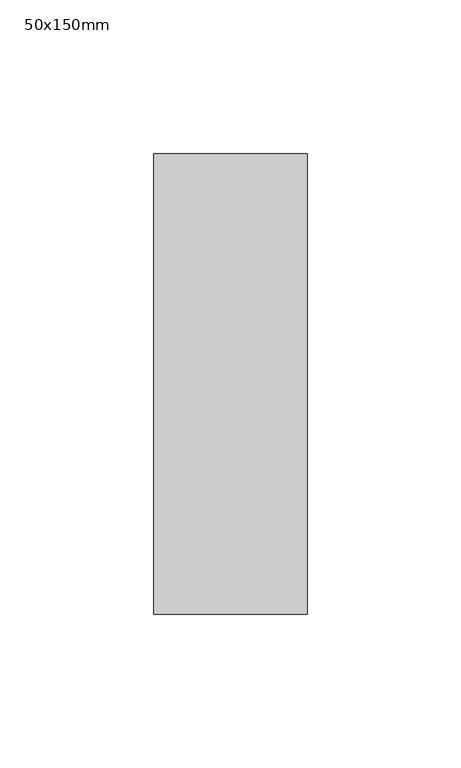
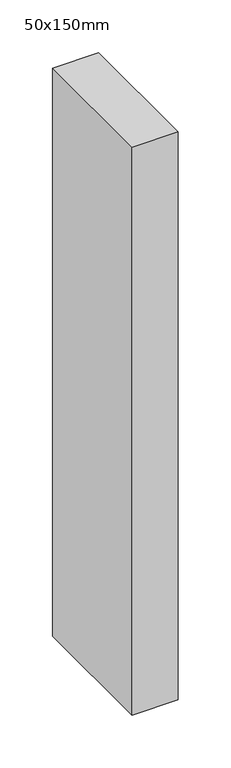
"""IFC4 building model written with IfcOpenShell, lengths in millimetres: member geometry, 長方形マリオン : 50x150mm."""

import ifcopenshell
import ifcopenshell.guid

model = None  # the IFC model being written
_history = None  # IfcOwnerHistory: only IFC2X3 demands one
_inside = {}  # id of a spatial element -> (the spatial element, [elements in it])
_under = {}  # id of a project, library or spatial element -> (it, [spatial elements below it])
_declared = {}  # id of a project -> (the project, [libraries it declares])
_typed = {}  # id of a type object -> (the type object, [elements of that type])
_made_of = {}  # id of a material, layer set ... -> (it, [elements and type objects made of it])


def new_model(schema):
    """Start an empty IFC model of exactly this schema.

    Asked for "IFC4X3", IfcOpenShell would pick the latest addendum, in which some entities
    have other attributes; the version numbers below select the first issue.
    IFC2X3 requires an IfcOwnerHistory on every rooted entity: one is made here for all.
    """
    global model, _history
    if schema == "IFC4X3":
        model = ifcopenshell.file(schema_version=(4, 3, 0, 0))
    else:
        model = ifcopenshell.file(schema=schema)
    _inside.clear()
    _under.clear()
    _declared.clear()
    _typed.clear()
    _made_of.clear()
    _history = None
    if model.schema == "IFC2X3":
        org = make("IfcOrganization", Name="unknown")
        user = make(
            "IfcPersonAndOrganization",
            ThePerson=make("IfcPerson", FamilyName="unknown"),
            TheOrganization=org,
        )
        app = make(
            "IfcApplication",
            ApplicationDeveloper=org,
            Version="unknown",
            ApplicationFullName="unknown",
            ApplicationIdentifier="unknown",
        )
        _history = make(
            "IfcOwnerHistory",
            OwningUser=user,
            OwningApplication=app,
            ChangeAction="ADDED",
            CreationDate=0,
        )
    return model


def make(cls, **values):
    """One entity of the class cls with the attributes given. An attribute that is None is left unset."""
    return model.create_entity(
        cls, **{name: value for name, value in values.items() if value is not None}
    )


def rooted(cls, **values):
    """An entity with a GlobalId (a new one), such as an element, a storey or a relation."""
    return make(cls, GlobalId=ifcopenshell.guid.new(), OwnerHistory=_history, **values)


def si_unit(unit_type, name, prefix=None):
    """IfcSIUnit, for example si_unit("LENGTHUNIT", "METRE", prefix="MILLI")."""
    return make("IfcSIUnit", UnitType=unit_type, Prefix=prefix, Name=name)


def assignment(units):
    """IfcUnitAssignment: the units of a project."""
    return None if units is None else make("IfcUnitAssignment", Units=units)


def point(xyz):
    """IfcCartesianPoint."""
    return None if xyz is None else make("IfcCartesianPoint", Coordinates=xyz)


def direction(xyz):
    """IfcDirection."""
    return None if xyz is None else make("IfcDirection", DirectionRatios=xyz)


def frame(location, z_axis=None, x_axis=None):
    """IfcAxis2Placement3D, a coordinate frame: its origin and axes. An axis left out is left unset."""
    return make(
        "IfcAxis2Placement3D",
        Location=point(location),
        Axis=direction(z_axis),
        RefDirection=direction(x_axis),
    )


def origin():
    """The frame at (0, 0, 0) with its axes left unset."""
    return frame((0.0, 0.0, 0.0))


def place(relative_to, where):
    """IfcLocalPlacement: puts the frame where relative to a parent placement (None: the world)."""
    return make(
        "IfcLocalPlacement", PlacementRelTo=relative_to, RelativePlacement=where
    )


def context(
    kind, dimensions, precision=None, world=None, true_north=None, identifier=None
):
    """IfcGeometricRepresentationContext, for example the 3D "Model" context."""
    return make(
        "IfcGeometricRepresentationContext",
        ContextIdentifier=identifier,
        ContextType=kind,
        CoordinateSpaceDimension=dimensions,
        Precision=precision,
        WorldCoordinateSystem=world,
        TrueNorth=true_north,
    )


def project(units=None, contexts=None):
    """IfcProject with its units and contexts."""
    return rooted(
        "IfcProject",
        Name="project",
        RepresentationContexts=contexts,
        UnitsInContext=assignment(units),
    )


def spatial(cls, under=None, at=None, **own):
    """A site, building, storey or space (cls), placed at a placement, below another one or the project."""
    s = rooted(cls, ObjectPlacement=at, **own)
    if under is not None:
        _under.setdefault(under.id(), (under, []))[1].append(s)
    return s


def polyline(points):
    """IfcPolyline through the points."""
    return make("IfcPolyline", Points=[point(p) for p in points])


def outline(outer, holes=None, kind="AREA"):
    """IfcArbitraryClosedProfileDef: a profile drawn as a closed curve; with holes, ...WithVoids."""
    if holes is None:
        return make("IfcArbitraryClosedProfileDef", ProfileType=kind, OuterCurve=outer)
    return make(
        "IfcArbitraryProfileDefWithVoids",
        ProfileType=kind,
        OuterCurve=outer,
        InnerCurves=holes,
    )


def extrude(swept, where, along, depth):
    """IfcExtrudedAreaSolid: the profile swept, set in the frame where, extruded along a direction by depth."""
    return make(
        "IfcExtrudedAreaSolid",
        SweptArea=swept,
        Position=where,
        ExtrudedDirection=direction(along),
        Depth=depth,
    )


def shape(context_of_items, identifier, shape_type, items):
    """IfcShapeRepresentation: the items that make up one representation, for example the "Body"."""
    return make(
        "IfcShapeRepresentation",
        ContextOfItems=context_of_items,
        RepresentationIdentifier=identifier,
        RepresentationType=shape_type,
        Items=items,
    )


def source(mapping_origin, context_of_items, identifier, shape_type, items):
    """IfcRepresentationMap: a shape defined once, which mapped items show again and again."""
    return make(
        "IfcRepresentationMap",
        MappingOrigin=mapping_origin,
        MappedRepresentation=shape(context_of_items, identifier, shape_type, items),
    )


def transform(
    local_origin,
    x_axis=None,
    y_axis=None,
    z_axis=None,
    scale=None,
    scale2=None,
    scale3=None,
    uniform=True,
):
    """IfcCartesianTransformationOperator3D, or its non-uniform kind. x_axis, y_axis, z_axis: its Axis1, 2, 3."""
    if uniform:
        return make(
            "IfcCartesianTransformationOperator3D",
            Axis1=direction(x_axis),
            Axis2=direction(y_axis),
            LocalOrigin=point(local_origin),
            Scale=scale,
            Axis3=direction(z_axis),
        )
    return make(
        "IfcCartesianTransformationOperator3DnonUniform",
        Axis1=direction(x_axis),
        Axis2=direction(y_axis),
        LocalOrigin=point(local_origin),
        Scale=scale,
        Axis3=direction(z_axis),
        Scale2=scale2,
        Scale3=scale3,
    )


def mapped(mapping_source, mapping_target):
    """IfcMappedItem: shows the shape of a source again, moved by a transform."""
    return make(
        "IfcMappedItem", MappingSource=mapping_source, MappingTarget=mapping_target
    )


def made_of(thing, what):
    """Note that an element or type object is made of a material, layer set ...; save() writes the relation."""
    if what is not None:
        _made_of.setdefault(what.id(), (what, []))[1].append(thing)
    return thing


def element(
    cls,
    number,
    at=None,
    inside=None,
    cuts=None,
    type_object=None,
    material=None,
    context=None,
    identifier="Body",
    shape_type=None,
    held_by="IfcProductDefinitionShape",
    body=None,
    shapes=None,
    **own,
):
    """One element of the class cls, such as IfcWall. Its Tag is "e" and its number.

    at: its placement. inside: the storey or other place that contains it. cuts: it is an
    opening in that element (IfcRelVoidsElement). A single representation is given by context,
    identifier, shape_type and body (its items); several are given by shapes. held_by: the class
    of the entity that holds the representations. save() writes the other relations.
    """
    e = rooted(cls, Tag="e%d" % number, ObjectPlacement=at, **own)
    if body is not None:
        shapes = [shape(context, identifier, shape_type, body)]
    if shapes is not None:
        e.Representation = make(held_by, Representations=shapes)
    if inside is not None:
        _inside.setdefault(inside.id(), (inside, []))[1].append(e)
    if cuts is not None:
        rooted(
            "IfcRelVoidsElement", RelatingBuildingElement=cuts, RelatedOpeningElement=e
        )
    if type_object is not None:
        _typed.setdefault(type_object.id(), (type_object, []))[1].append(e)
    return made_of(e, material)


def aggregate(whole, parts):
    """IfcRelAggregates: a whole, such as a stair, and the parts it consists of."""
    return rooted("IfcRelAggregates", RelatingObject=whole, RelatedObjects=parts)


def save(model, path):
    """Write the relations noted so far, then the file.

    IfcRelAggregates (storeys below a building ...), IfcRelContainedInSpatialStructure (elements
    in a storey), IfcRelDefinesByType, IfcRelAssociatesMaterial and IfcRelDeclares: one each for
    every whole, place, type object, material and project.
    """
    for whole, parts in _under.values():
        aggregate(whole, parts)
    for where, things in _inside.values():
        rooted(
            "IfcRelContainedInSpatialStructure",
            RelatedElements=things,
            RelatingStructure=where,
        )
    for kind, things in _typed.values():
        rooted("IfcRelDefinesByType", RelatedObjects=things, RelatingType=kind)
    for what, things in _made_of.values():
        rooted("IfcRelAssociatesMaterial", RelatedObjects=things, RelatingMaterial=what)
    for by, libraries in _declared.values():
        rooted("IfcRelDeclares", RelatingContext=by, RelatedDefinitions=libraries)
    model.write(path)


def member_50x150mm_f4543df4(model_context):
    return source(origin(), model_context, "Body", "SweptSolid", [
        extrude(outline(polyline([(0.0, 75.0), (0.0, -75.0), (-50.0, -75.0), (-50.0, 75.0), (0.0, 75.0)])), frame((0.0, 0.0, -654.1666667), z_axis=(0.0, 0.0, 1.0), x_axis=(1.0, 0.0, 0.0)), (0.0, 0.0, 1.0), 654.1666667),
    ])


if __name__ == "__main__":
    model = new_model("IFC4")
    model_context = context("Model", 3, world=origin())
    ifc_project = project(units=[si_unit("LENGTHUNIT", "METRE", prefix="MILLI")], contexts=[model_context])
    site = spatial("IfcSite", under=ifc_project)
    building = spatial("IfcBuilding", under=site)
    placement = place(None, origin())
    member_50x150mm_shape = member_50x150mm_f4543df4(model_context)
    element("IfcMember", 1, ObjectType="長方形マリオン : 50x150mm", at=placement, inside=building, context=model_context, shape_type="MappedRepresentation", body=[
        mapped(member_50x150mm_shape, transform((0.0, 0.0, 0.0), x_axis=(1.0, 0.0, 0.0), y_axis=(0.0, 1.0, 0.0), z_axis=(0.0, 0.0, 1.0))),
    ])
    save(model, "model.ifc")
